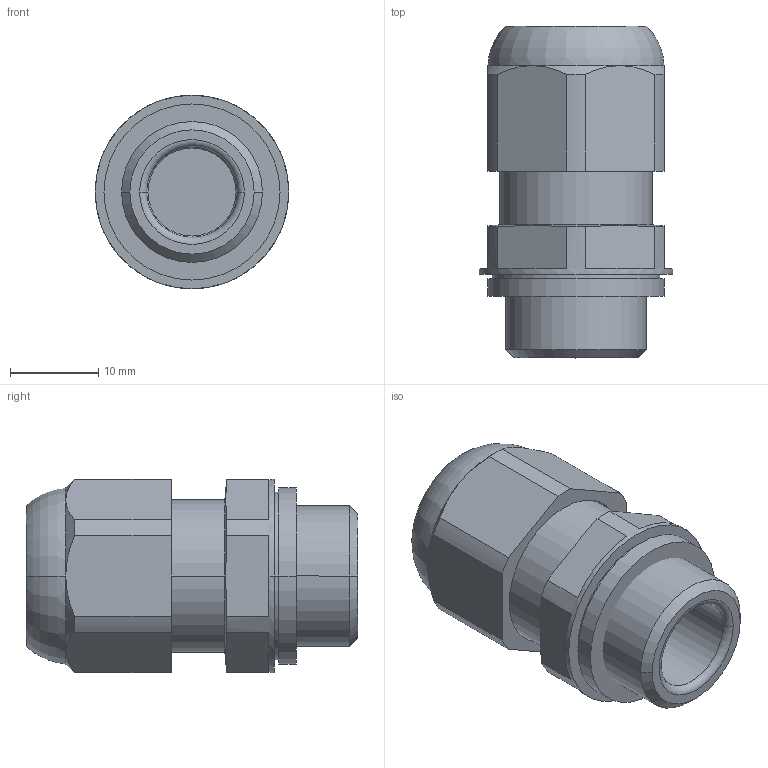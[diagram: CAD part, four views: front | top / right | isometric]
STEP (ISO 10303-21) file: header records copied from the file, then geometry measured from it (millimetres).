
FILE_DESCRIPTION (( 'STEP AP203' ), '1' );
FILE_NAME ('8161_5-M16-9.STEP', '2013-07-31T07:50:11', ( 'Admin' ), ( 'R. STAHL AG' ), 'SwSTEP 2.0', 'SolidWorks 2013', '' );
FILE_SCHEMA (( 'CONFIG_CONTROL_DESIGN' ));
Length unit declared in the file: millimetre
Products named in the file (6): 81_610_76_01_0_Stutzen_Vereinfacht; 81_610_76_01_0_Dichtung; 81_610_76_01_0_Hutmutter_Vereinfacht; Anschlussgewindedichtung_M16; Staubschutzkappe_M16; 8161_5-M16-9
Assembly tree (5 placements, depth 2):
  8161_5-M16-9
    81_610_76_01_0_Stutzen_Vereinfacht
    81_610_76_01_0_Dichtung
    81_610_76_01_0_Hutmutter_Vereinfacht
    Anschlussgewindedichtung_M16
    Staubschutzkappe_M16
Bounding box: 22 x 37.7 x 22 mm (x, y, z)
Volume: 7446.1 mm3; surface area: 6403.1 mm2
Topology: 5 solids, 5 shells, 87 faces, 196 edges, 119 vertices
Faces by surface type: cylinder 30, cone 27, plane 22, torus 8
Entity records: 3155 total; most frequent: CARTESIAN_POINT 541, DIRECTION 459, ORIENTED_EDGE 392, EDGE_CURVE 196, AXIS2_PLACEMENT_3D 195, VERTEX_POINT 119, CIRCLE 100, EDGE_LOOP 95
